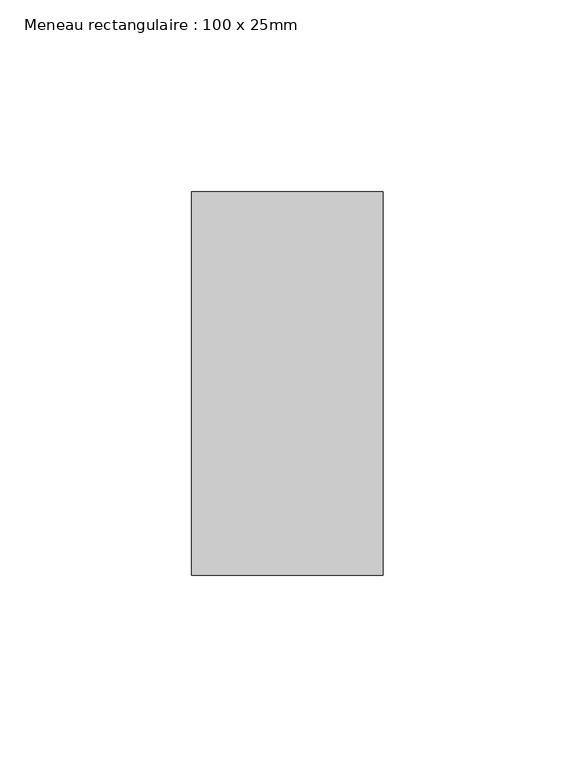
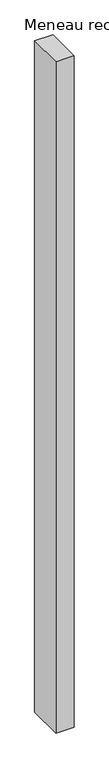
"""IFC4 building model written with IfcOpenShell, lengths in millimetres: member geometry, Meneau rectangulaire : 100 x 25mm."""

from ifc_helpers import new_model, si_unit, frame, origin, place, context, project, spatial, polyline, outline, extrude, source, transform, mapped, element, save


def meneau_rectangulaire_100_x_25mm_2cce39ab(model_context):
    return source(origin(), model_context, "Body", "SweptSolid", [
        extrude(outline(polyline([(0.0, 50.0), (0.0, -50.0), (-50.0, -50.0), (-50.0, 50.0), (0.0, 50.0)])), frame((0.0, 0.0, -1941.9075603), z_axis=(0.0, 0.0, 1.0), x_axis=(1.0, 0.0, 0.0)), (0.0, 0.0, 1.0), 1941.9075603),
    ])


if __name__ == "__main__":
    model = new_model("IFC4")
    model_context = context("Model", 3, world=origin())
    ifc_project = project(units=[si_unit("LENGTHUNIT", "METRE", prefix="MILLI")], contexts=[model_context])
    site = spatial("IfcSite", under=ifc_project)
    building = spatial("IfcBuilding", under=site)
    placement = place(None, origin())
    meneau_rectangulaire_100_x_25mm_shape = meneau_rectangulaire_100_x_25mm_2cce39ab(model_context)
    element("IfcMember", 1, ObjectType="Meneau rectangulaire : 100 x 25mm", at=placement, inside=building, context=model_context, shape_type="MappedRepresentation", body=[
        mapped(meneau_rectangulaire_100_x_25mm_shape, transform((0.0, 0.0, 0.0), x_axis=(1.0, 0.0, 0.0), y_axis=(0.0, 1.0, 0.0), z_axis=(0.0, 0.0, 1.0))),
    ])
    save(model, "model.ifc")
